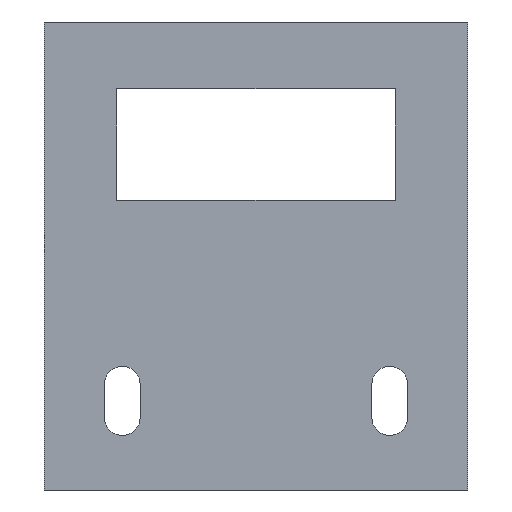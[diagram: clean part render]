
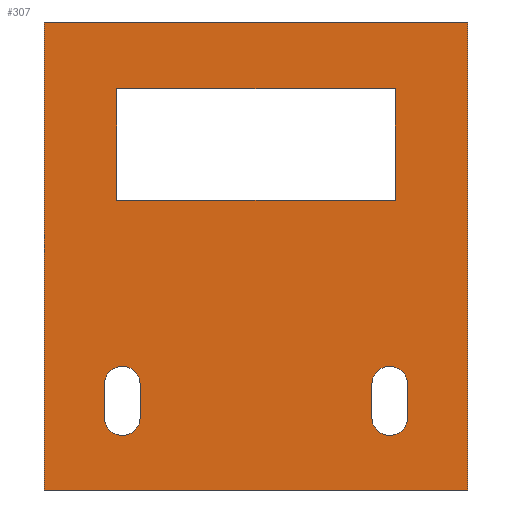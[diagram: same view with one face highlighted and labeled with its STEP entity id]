
A CAD part, front view. The second image highlights one B-rep face of the part: STEP entity #307.
In plain terms, the highlighted planar face has unit normal (0, -1, 0).
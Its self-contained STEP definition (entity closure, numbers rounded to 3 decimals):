
#78 = VERTEX_POINT('',#79);
#79 = CARTESIAN_POINT('',(-19.,-123.,108.781));
#87 = VERTEX_POINT('',#88);
#88 = CARTESIAN_POINT('',(19.,-123.,108.781));
#94 = EDGE_CURVE('',#78,#87,#95,.T.);
#95 = LINE('',#96,#97);
#96 = CARTESIAN_POINT('',(-19.,-123.,108.781));
#97 = VECTOR('',#98,1.);
#98 = DIRECTION('',(1.,0.,0.));
#130 = EDGE_CURVE('',#87,#131,#133,.T.);
#131 = VERTEX_POINT('',#132);
#132 = CARTESIAN_POINT('',(19.,-123.,150.781));
#133 = LINE('',#134,#135);
#134 = CARTESIAN_POINT('',(19.,-123.,108.781));
#135 = VECTOR('',#136,1.);
#136 = DIRECTION('',(0.,0.,1.));
#278 = EDGE_CURVE('',#78,#279,#281,.T.);
#279 = VERTEX_POINT('',#280);
#280 = CARTESIAN_POINT('',(-19.,-123.,150.781));
#281 = LINE('',#282,#283);
#282 = CARTESIAN_POINT('',(-19.,-123.,108.781));
#283 = VECTOR('',#284,1.);
#284 = DIRECTION('',(0.,0.,1.));
#307 = ADVANCED_FACE('',(#308,#319,#355,#389),#425,.F.);
#308 = FACE_BOUND('',#309,.F.);
#309 = EDGE_LOOP('',(#310,#311,#312,#318));
#310 = ORIENTED_EDGE('',*,*,#94,.F.);
#311 = ORIENTED_EDGE('',*,*,#278,.T.);
#312 = ORIENTED_EDGE('',*,*,#313,.T.);
#313 = EDGE_CURVE('',#279,#131,#314,.T.);
#314 = LINE('',#315,#316);
#315 = CARTESIAN_POINT('',(-19.,-123.,150.781));
#316 = VECTOR('',#317,1.);
#317 = DIRECTION('',(1.,0.,0.));
#318 = ORIENTED_EDGE('',*,*,#130,.F.);
#319 = FACE_BOUND('',#320,.F.);
#320 = EDGE_LOOP('',(#321,#332,#340,#349));
#321 = ORIENTED_EDGE('',*,*,#322,.F.);
#322 = EDGE_CURVE('',#323,#325,#327,.T.);
#323 = VERTEX_POINT('',#324);
#324 = CARTESIAN_POINT('',(-13.6,-123.,118.281));
#325 = VERTEX_POINT('',#326);
#326 = CARTESIAN_POINT('',(-10.4,-123.,118.281));
#327 = CIRCLE('',#328,1.6);
#328 = AXIS2_PLACEMENT_3D('',#329,#330,#331);
#329 = CARTESIAN_POINT('',(-12.,-123.,118.281));
#330 = DIRECTION('',(0.,1.,0.));
#331 = DIRECTION('',(0.,0.,1.));
#332 = ORIENTED_EDGE('',*,*,#333,.T.);
#333 = EDGE_CURVE('',#323,#334,#336,.T.);
#334 = VERTEX_POINT('',#335);
#335 = CARTESIAN_POINT('',(-13.6,-123.,115.281));
#336 = LINE('',#337,#338);
#337 = CARTESIAN_POINT('',(-13.6,-123.,112.031));
#338 = VECTOR('',#339,1.);
#339 = DIRECTION('',(0.,0.,-1.));
#340 = ORIENTED_EDGE('',*,*,#341,.F.);
#341 = EDGE_CURVE('',#342,#334,#344,.T.);
#342 = VERTEX_POINT('',#343);
#343 = CARTESIAN_POINT('',(-10.4,-123.,115.281));
#344 = CIRCLE('',#345,1.6);
#345 = AXIS2_PLACEMENT_3D('',#346,#347,#348);
#346 = CARTESIAN_POINT('',(-12.,-123.,115.281));
#347 = DIRECTION('',(0.,1.,0.));
#348 = DIRECTION('',(0.,0.,1.));
#349 = ORIENTED_EDGE('',*,*,#350,.F.);
#350 = EDGE_CURVE('',#325,#342,#351,.T.);
#351 = LINE('',#352,#353);
#352 = CARTESIAN_POINT('',(-10.4,-123.,112.031));
#353 = VECTOR('',#354,1.);
#354 = DIRECTION('',(0.,0.,-1.));
#355 = FACE_BOUND('',#356,.F.);
#356 = EDGE_LOOP('',(#357,#367,#375,#383));
#357 = ORIENTED_EDGE('',*,*,#358,.F.);
#358 = EDGE_CURVE('',#359,#361,#363,.T.);
#359 = VERTEX_POINT('',#360);
#360 = CARTESIAN_POINT('',(-12.5,-123.,144.781));
#361 = VERTEX_POINT('',#362);
#362 = CARTESIAN_POINT('',(12.5,-123.,144.781));
#363 = LINE('',#364,#365);
#364 = CARTESIAN_POINT('',(-15.75,-123.,144.781));
#365 = VECTOR('',#366,1.);
#366 = DIRECTION('',(1.,0.,0.));
#367 = ORIENTED_EDGE('',*,*,#368,.T.);
#368 = EDGE_CURVE('',#359,#369,#371,.T.);
#369 = VERTEX_POINT('',#370);
#370 = CARTESIAN_POINT('',(-12.5,-123.,134.781));
#371 = LINE('',#372,#373);
#372 = CARTESIAN_POINT('',(-12.5,-123.,121.781));
#373 = VECTOR('',#374,1.);
#374 = DIRECTION('',(0.,0.,-1.));
#375 = ORIENTED_EDGE('',*,*,#376,.T.);
#376 = EDGE_CURVE('',#369,#377,#379,.T.);
#377 = VERTEX_POINT('',#378);
#378 = CARTESIAN_POINT('',(12.5,-123.,134.781));
#379 = LINE('',#380,#381);
#380 = CARTESIAN_POINT('',(-15.75,-123.,134.781));
#381 = VECTOR('',#382,1.);
#382 = DIRECTION('',(1.,0.,0.));
#383 = ORIENTED_EDGE('',*,*,#384,.F.);
#384 = EDGE_CURVE('',#361,#377,#385,.T.);
#385 = LINE('',#386,#387);
#386 = CARTESIAN_POINT('',(12.5,-123.,121.781));
#387 = VECTOR('',#388,1.);
#388 = DIRECTION('',(0.,0.,-1.));
#389 = FACE_BOUND('',#390,.F.);
#390 = EDGE_LOOP('',(#391,#402,#410,#419));
#391 = ORIENTED_EDGE('',*,*,#392,.F.);
#392 = EDGE_CURVE('',#393,#395,#397,.T.);
#393 = VERTEX_POINT('',#394);
#394 = CARTESIAN_POINT('',(10.4,-123.,118.281));
#395 = VERTEX_POINT('',#396);
#396 = CARTESIAN_POINT('',(13.6,-123.,118.281));
#397 = CIRCLE('',#398,1.6);
#398 = AXIS2_PLACEMENT_3D('',#399,#400,#401);
#399 = CARTESIAN_POINT('',(12.,-123.,118.281));
#400 = DIRECTION('',(0.,1.,0.));
#401 = DIRECTION('',(0.,0.,1.));
#402 = ORIENTED_EDGE('',*,*,#403,.T.);
#403 = EDGE_CURVE('',#393,#404,#406,.T.);
#404 = VERTEX_POINT('',#405);
#405 = CARTESIAN_POINT('',(10.4,-123.,115.281));
#406 = LINE('',#407,#408);
#407 = CARTESIAN_POINT('',(10.4,-123.,112.031));
#408 = VECTOR('',#409,1.);
#409 = DIRECTION('',(0.,0.,-1.));
#410 = ORIENTED_EDGE('',*,*,#411,.F.);
#411 = EDGE_CURVE('',#412,#404,#414,.T.);
#412 = VERTEX_POINT('',#413);
#413 = CARTESIAN_POINT('',(13.6,-123.,115.281));
#414 = CIRCLE('',#415,1.6);
#415 = AXIS2_PLACEMENT_3D('',#416,#417,#418);
#416 = CARTESIAN_POINT('',(12.,-123.,115.281));
#417 = DIRECTION('',(0.,1.,0.));
#418 = DIRECTION('',(0.,0.,1.));
#419 = ORIENTED_EDGE('',*,*,#420,.F.);
#420 = EDGE_CURVE('',#395,#412,#421,.T.);
#421 = LINE('',#422,#423);
#422 = CARTESIAN_POINT('',(13.6,-123.,112.031));
#423 = VECTOR('',#424,1.);
#424 = DIRECTION('',(0.,0.,-1.));
#425 = PLANE('',#426);
#426 = AXIS2_PLACEMENT_3D('',#427,#428,#429);
#427 = CARTESIAN_POINT('',(-19.,-123.,108.781));
#428 = DIRECTION('',(0.,1.,0.));
#429 = DIRECTION('',(0.,0.,1.));
